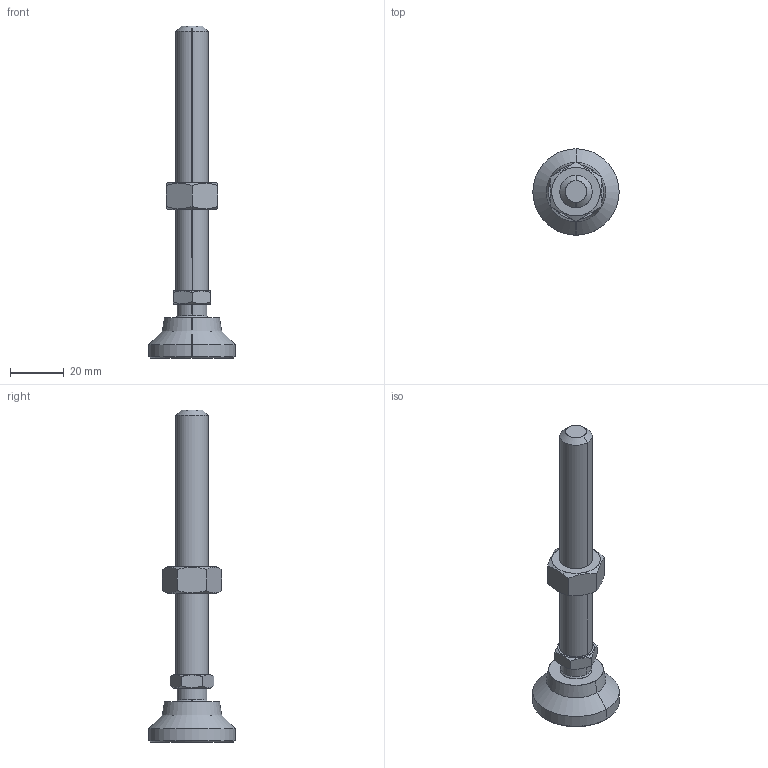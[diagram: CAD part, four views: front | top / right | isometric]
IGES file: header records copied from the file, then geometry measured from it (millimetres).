
Start section: SolidWorks IGES file using analytic representation for surfaces
Global section: file name: X:\11_SW2020-Inv2020\00_全2021-11新製品まで\l\LSA32S12C-SUS\lsa32s12c-sus.IGS; native system: SolidWorks 2020; preprocessor: SolidWorks 2020; author: ImaoCorp; date: 211025.122254; units: millimetre
Bounding box: 32 x 32 x 123 mm (x, y, z)
Surface area: 8088.5 mm2 (no closed solid volume)
Topology: 0 solids, 0 shells, 45 faces, 900 edges, 900 vertices
Faces by surface type: revolution 26, bspline 19
